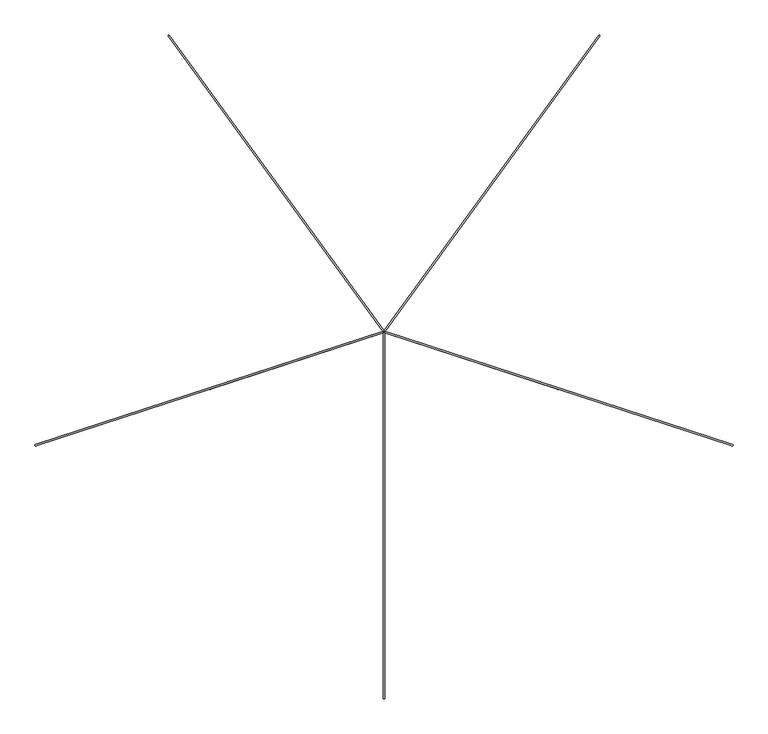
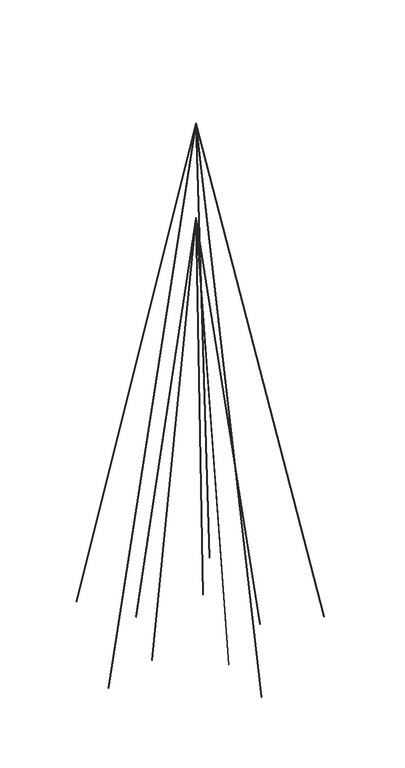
"""IFC4 building model written with IfcOpenShell, lengths in millimetres: proxy geometry, КНС_ДополнительныйКомплектДляМачты_DKC : NG6008_8м."""

import ifcopenshell
import ifcopenshell.guid

model = None  # the IFC model being written
_history = None  # IfcOwnerHistory: only IFC2X3 demands one
_inside = {}  # id of a spatial element -> (the spatial element, [elements in it])
_under = {}  # id of a project, library or spatial element -> (it, [spatial elements below it])
_declared = {}  # id of a project -> (the project, [libraries it declares])
_typed = {}  # id of a type object -> (the type object, [elements of that type])
_made_of = {}  # id of a material, layer set ... -> (it, [elements and type objects made of it])


def new_model(schema):
    """Start an empty IFC model of exactly this schema.

    Asked for "IFC4X3", IfcOpenShell would pick the latest addendum, in which some entities
    have other attributes; the version numbers below select the first issue.
    IFC2X3 requires an IfcOwnerHistory on every rooted entity: one is made here for all.
    """
    global model, _history
    if schema == "IFC4X3":
        model = ifcopenshell.file(schema_version=(4, 3, 0, 0))
    else:
        model = ifcopenshell.file(schema=schema)
    _inside.clear()
    _under.clear()
    _declared.clear()
    _typed.clear()
    _made_of.clear()
    _history = None
    if model.schema == "IFC2X3":
        org = make("IfcOrganization", Name="unknown")
        user = make(
            "IfcPersonAndOrganization",
            ThePerson=make("IfcPerson", FamilyName="unknown"),
            TheOrganization=org,
        )
        app = make(
            "IfcApplication",
            ApplicationDeveloper=org,
            Version="unknown",
            ApplicationFullName="unknown",
            ApplicationIdentifier="unknown",
        )
        _history = make(
            "IfcOwnerHistory",
            OwningUser=user,
            OwningApplication=app,
            ChangeAction="ADDED",
            CreationDate=0,
        )
    return model


def make(cls, **values):
    """One entity of the class cls with the attributes given. An attribute that is None is left unset."""
    return model.create_entity(
        cls, **{name: value for name, value in values.items() if value is not None}
    )


def rooted(cls, **values):
    """An entity with a GlobalId (a new one), such as an element, a storey or a relation."""
    return make(cls, GlobalId=ifcopenshell.guid.new(), OwnerHistory=_history, **values)


def si_unit(unit_type, name, prefix=None):
    """IfcSIUnit, for example si_unit("LENGTHUNIT", "METRE", prefix="MILLI")."""
    return make("IfcSIUnit", UnitType=unit_type, Prefix=prefix, Name=name)


def assignment(units):
    """IfcUnitAssignment: the units of a project."""
    return None if units is None else make("IfcUnitAssignment", Units=units)


def point(xyz):
    """IfcCartesianPoint."""
    return None if xyz is None else make("IfcCartesianPoint", Coordinates=xyz)


def direction(xyz):
    """IfcDirection."""
    return None if xyz is None else make("IfcDirection", DirectionRatios=xyz)


def frame(location, z_axis=None, x_axis=None):
    """IfcAxis2Placement3D, a coordinate frame: its origin and axes. An axis left out is left unset."""
    return make(
        "IfcAxis2Placement3D",
        Location=point(location),
        Axis=direction(z_axis),
        RefDirection=direction(x_axis),
    )


def frame_2d(location, x_axis=None):
    """IfcAxis2Placement2D, a coordinate frame in the plane: its origin and x axis."""
    return make(
        "IfcAxis2Placement2D", Location=point(location), RefDirection=direction(x_axis)
    )


def origin():
    """The frame at (0, 0, 0) with its axes left unset."""
    return frame((0.0, 0.0, 0.0))


def origin_2d():
    """The frame at (0, 0) in the plane with its x axis left unset."""
    return frame_2d((0.0, 0.0))


def place(relative_to, where):
    """IfcLocalPlacement: puts the frame where relative to a parent placement (None: the world)."""
    return make(
        "IfcLocalPlacement", PlacementRelTo=relative_to, RelativePlacement=where
    )


def context(
    kind, dimensions, precision=None, world=None, true_north=None, identifier=None
):
    """IfcGeometricRepresentationContext, for example the 3D "Model" context."""
    return make(
        "IfcGeometricRepresentationContext",
        ContextIdentifier=identifier,
        ContextType=kind,
        CoordinateSpaceDimension=dimensions,
        Precision=precision,
        WorldCoordinateSystem=world,
        TrueNorth=true_north,
    )


def project(units=None, contexts=None):
    """IfcProject with its units and contexts."""
    return rooted(
        "IfcProject",
        Name="project",
        RepresentationContexts=contexts,
        UnitsInContext=assignment(units),
    )


def spatial(cls, under=None, at=None, **own):
    """A site, building, storey or space (cls), placed at a placement, below another one or the project."""
    s = rooted(cls, ObjectPlacement=at, **own)
    if under is not None:
        _under.setdefault(under.id(), (under, []))[1].append(s)
    return s


def circle_curve(where, radius):
    """IfcCircle in the frame where."""
    return make("IfcCircle", Position=where, Radius=radius)


def trimmed(basis, trim1, trim2, sense, master):
    """IfcTrimmedCurve: the piece of a basis curve between two trims."""
    return make(
        "IfcTrimmedCurve",
        BasisCurve=basis,
        Trim1=trim1,
        Trim2=trim2,
        SenseAgreement=sense,
        MasterRepresentation=master,
    )


def segment(curve, same_sense, transition):
    """IfcCompositeCurveSegment."""
    return make(
        "IfcCompositeCurveSegment",
        Transition=transition,
        SameSense=same_sense,
        ParentCurve=curve,
    )


def composite_curve(segments, self_intersect=None):
    """IfcCompositeCurve: segments joined end to end."""
    return make("IfcCompositeCurve", Segments=segments, SelfIntersect=self_intersect)


def outline(outer, holes=None, kind="AREA"):
    """IfcArbitraryClosedProfileDef: a profile drawn as a closed curve; with holes, ...WithVoids."""
    if holes is None:
        return make("IfcArbitraryClosedProfileDef", ProfileType=kind, OuterCurve=outer)
    return make(
        "IfcArbitraryProfileDefWithVoids",
        ProfileType=kind,
        OuterCurve=outer,
        InnerCurves=holes,
    )


def extrude(swept, where, along, depth):
    """IfcExtrudedAreaSolid: the profile swept, set in the frame where, extruded along a direction by depth."""
    return make(
        "IfcExtrudedAreaSolid",
        SweptArea=swept,
        Position=where,
        ExtrudedDirection=direction(along),
        Depth=depth,
    )


def shape(context_of_items, identifier, shape_type, items):
    """IfcShapeRepresentation: the items that make up one representation, for example the "Body"."""
    return make(
        "IfcShapeRepresentation",
        ContextOfItems=context_of_items,
        RepresentationIdentifier=identifier,
        RepresentationType=shape_type,
        Items=items,
    )


def source(mapping_origin, context_of_items, identifier, shape_type, items):
    """IfcRepresentationMap: a shape defined once, which mapped items show again and again."""
    return make(
        "IfcRepresentationMap",
        MappingOrigin=mapping_origin,
        MappedRepresentation=shape(context_of_items, identifier, shape_type, items),
    )


def transform(
    local_origin,
    x_axis=None,
    y_axis=None,
    z_axis=None,
    scale=None,
    scale2=None,
    scale3=None,
    uniform=True,
):
    """IfcCartesianTransformationOperator3D, or its non-uniform kind. x_axis, y_axis, z_axis: its Axis1, 2, 3."""
    if uniform:
        return make(
            "IfcCartesianTransformationOperator3D",
            Axis1=direction(x_axis),
            Axis2=direction(y_axis),
            LocalOrigin=point(local_origin),
            Scale=scale,
            Axis3=direction(z_axis),
        )
    return make(
        "IfcCartesianTransformationOperator3DnonUniform",
        Axis1=direction(x_axis),
        Axis2=direction(y_axis),
        LocalOrigin=point(local_origin),
        Scale=scale,
        Axis3=direction(z_axis),
        Scale2=scale2,
        Scale3=scale3,
    )


def mapped(mapping_source, mapping_target):
    """IfcMappedItem: shows the shape of a source again, moved by a transform."""
    return make(
        "IfcMappedItem", MappingSource=mapping_source, MappingTarget=mapping_target
    )


def made_of(thing, what):
    """Note that an element or type object is made of a material, layer set ...; save() writes the relation."""
    if what is not None:
        _made_of.setdefault(what.id(), (what, []))[1].append(thing)
    return thing


def element(
    cls,
    number,
    at=None,
    inside=None,
    cuts=None,
    type_object=None,
    material=None,
    context=None,
    identifier="Body",
    shape_type=None,
    held_by="IfcProductDefinitionShape",
    body=None,
    shapes=None,
    **own,
):
    """One element of the class cls, such as IfcWall. Its Tag is "e" and its number.

    at: its placement. inside: the storey or other place that contains it. cuts: it is an
    opening in that element (IfcRelVoidsElement). A single representation is given by context,
    identifier, shape_type and body (its items); several are given by shapes. held_by: the class
    of the entity that holds the representations. save() writes the other relations.
    """
    e = rooted(cls, Tag="e%d" % number, ObjectPlacement=at, **own)
    if body is not None:
        shapes = [shape(context, identifier, shape_type, body)]
    if shapes is not None:
        e.Representation = make(held_by, Representations=shapes)
    if inside is not None:
        _inside.setdefault(inside.id(), (inside, []))[1].append(e)
    if cuts is not None:
        rooted(
            "IfcRelVoidsElement", RelatingBuildingElement=cuts, RelatedOpeningElement=e
        )
    if type_object is not None:
        _typed.setdefault(type_object.id(), (type_object, []))[1].append(e)
    return made_of(e, material)


def aggregate(whole, parts):
    """IfcRelAggregates: a whole, such as a stair, and the parts it consists of."""
    return rooted("IfcRelAggregates", RelatingObject=whole, RelatedObjects=parts)


def save(model, path):
    """Write the relations noted so far, then the file.

    IfcRelAggregates (storeys below a building ...), IfcRelContainedInSpatialStructure (elements
    in a storey), IfcRelDefinesByType, IfcRelAssociatesMaterial and IfcRelDeclares: one each for
    every whole, place, type object, material and project.
    """
    for whole, parts in _under.values():
        aggregate(whole, parts)
    for where, things in _inside.values():
        rooted(
            "IfcRelContainedInSpatialStructure",
            RelatedElements=things,
            RelatingStructure=where,
        )
    for kind, things in _typed.values():
        rooted("IfcRelDefinesByType", RelatedObjects=things, RelatingType=kind)
    for what, things in _made_of.values():
        rooted("IfcRelAssociatesMaterial", RelatedObjects=things, RelatingMaterial=what)
    for by, libraries in _declared.values():
        rooted("IfcRelDeclares", RelatingContext=by, RelatedDefinitions=libraries)
    model.write(path)


def security_devices_3b14cfa0(model_context):
    return source(origin(), model_context, "Body", "SweptSolid", [
        extrude(outline(composite_curve([segment(trimmed(circle_curve(origin_2d(), 3.0), [point((-2.9999999, 1e-07))], [point((3.0000001, 0.0))], False, "CARTESIAN"), True, "CONTINUOUS"), segment(trimmed(circle_curve(origin_2d(), 3.0), [point((3.0000001, 0.0))], [point((-2.9999999, 1e-07))], False, "CARTESIAN"), True, "CONTINUOUS")], self_intersect=False)), frame((-808.3980389, -262.6644452, 238.0), z_axis=(0.12213653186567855, 0.039684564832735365, 0.991719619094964), x_axis=(0.3090169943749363, -0.9510565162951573, 0.0)), (0.0, 0.0, 1.0), 6618.8062368),
        extrude(outline(composite_curve([segment(trimmed(circle_curve(origin_2d(), 3.0), [point((-3.0, 0.0))], [point((3.0000001, 0.0))], False, "CARTESIAN"), True, "CONTINUOUS"), segment(trimmed(circle_curve(origin_2d(), 3.0), [point((3.0000001, 0.0))], [point((-3.0, 0.0))], False, "CARTESIAN"), True, "CONTINUOUS")], self_intersect=False)), frame((-1616.7960777, -525.3288904, 238.0), z_axis=(0.196183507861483, 0.06374388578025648, 0.9784931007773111), x_axis=(0.30901699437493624, -0.9510565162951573, 0.0)), (0.0, 0.0, 1.0), 8241.2435955),
        extrude(outline(composite_curve([segment(trimmed(circle_curve(origin_2d(), 3.0), [point((-3.0, -1e-07))], [point((3.0, -1e-07))], False, "CARTESIAN"), True, "CONTINUOUS"), segment(trimmed(circle_curve(origin_2d(), 3.0), [point((3.0, -1e-07))], [point((-3.0, -1e-07))], False, "CARTESIAN"), True, "CONTINUOUS")], self_intersect=False)), frame((-499.6174644, 687.6644452, 238.0), z_axis=(0.07548452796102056, -0.10389553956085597, 0.991719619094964), x_axis=(-0.8090169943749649, -0.5877852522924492, 0.0)), (0.0, 0.0, 1.0), 6618.8062368),
        extrude(outline(composite_curve([segment(trimmed(circle_curve(origin_2d(), 3.0), [point((-3.0, 0.0))], [point((3.0, -1e-07))], False, "CARTESIAN"), True, "CONTINUOUS"), segment(trimmed(circle_curve(origin_2d(), 3.0), [point((3.0, -1e-07))], [point((-3.0, 0.0))], False, "CARTESIAN"), True, "CONTINUOUS")], self_intersect=False)), frame((-999.2349289, 1375.3288904, 238.0), z_axis=(0.1212480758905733, -0.16688365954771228, 0.9784931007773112), x_axis=(-0.809016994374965, -0.5877852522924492, 0.0)), (0.0, 0.0, 1.0), 8241.2435955),
        extrude(outline(composite_curve([segment(trimmed(circle_curve(origin_2d(), 3.0), [point((-3.0, -1e-07))], [point((3.0, -1e-07))], False, "CARTESIAN"), True, "CONTINUOUS"), segment(trimmed(circle_curve(origin_2d(), 3.0), [point((3.0, -1e-07))], [point((-3.0, -1e-07))], False, "CARTESIAN"), True, "CONTINUOUS")], self_intersect=False)), frame((499.6174644, 687.6644452, 238.0), z_axis=(-0.07548452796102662, -0.1038955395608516, 0.991719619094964), x_axis=(-0.8090169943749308, 0.5877852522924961, 0.0)), (0.0, 0.0, 1.0), 6618.8062368),
        extrude(outline(composite_curve([segment(trimmed(circle_curve(origin_2d(), 3.0), [point((-3.0, -1e-07))], [point((3.0, 0.0))], False, "CARTESIAN"), True, "CONTINUOUS"), segment(trimmed(circle_curve(origin_2d(), 3.0), [point((3.0, 0.0))], [point((-3.0, -1e-07))], False, "CARTESIAN"), True, "CONTINUOUS")], self_intersect=False)), frame((999.2349289, 1375.3288904, 238.0), z_axis=(-0.12124807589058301, -0.16688365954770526, 0.9784931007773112), x_axis=(-0.8090169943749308, 0.5877852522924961, 0.0)), (0.0, 0.0, 1.0), 8241.2435955),
        extrude(outline(composite_curve([segment(trimmed(circle_curve(origin_2d(), 3.0), [point((-3.0000001, 0.0))], [point((2.9999999, 1e-07))], False, "CARTESIAN"), True, "CONTINUOUS"), segment(trimmed(circle_curve(origin_2d(), 3.0), [point((2.9999999, 1e-07))], [point((-3.0000001, 0.0))], False, "CARTESIAN"), True, "CONTINUOUS")], self_intersect=False)), frame((808.3980389, -262.6644452, 238.0), z_axis=(-0.12213653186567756, 0.03968456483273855, 0.9917196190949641), x_axis=(0.3090169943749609, 0.9510565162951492, 0.0)), (0.0, 0.0, 1.0), 6618.8062368),
        extrude(outline(composite_curve([segment(trimmed(circle_curve(origin_2d(), 3.0), [point((-3.0000001, 0.0))], [point((3.0, 0.0))], False, "CARTESIAN"), True, "CONTINUOUS"), segment(trimmed(circle_curve(origin_2d(), 3.0), [point((3.0, 0.0))], [point((-3.0000001, 0.0))], False, "CARTESIAN"), True, "CONTINUOUS")], self_intersect=False)), frame((1616.7960777, -525.3288904, 238.0), z_axis=(-0.19618350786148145, 0.06374388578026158, 0.9784931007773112), x_axis=(0.30901699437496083, 0.9510565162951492, 0.0)), (0.0, 0.0, 1.0), 8241.2435955),
        extrude(outline(composite_curve([segment(trimmed(circle_curve(origin_2d(), 3.0), [point((-3.0, 0.0))], [point((3.0, 0.0))], False, "CARTESIAN"), True, "CONTINUOUS"), segment(trimmed(circle_curve(origin_2d(), 3.0), [point((3.0, 0.0))], [point((-3.0, 0.0))], False, "CARTESIAN"), True, "CONTINUOUS")], self_intersect=False)), frame((0.0, -850.0, 238.0), z_axis=(0.0, 0.1284219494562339, 0.9917196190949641), x_axis=(1.0, 0.0, 0.0)), (0.0, 0.0, 1.0), 6618.8062368),
        extrude(outline(composite_curve([segment(trimmed(circle_curve(origin_2d(), 3.0), [point((-3.0, 0.0))], [point((3.0, 0.0))], False, "CARTESIAN"), True, "CONTINUOUS"), segment(trimmed(circle_curve(origin_2d(), 3.0), [point((3.0, 0.0))], [point((-3.0, 0.0))], False, "CARTESIAN"), True, "CONTINUOUS")], self_intersect=False)), frame((0.0, -1700.0, 238.0), z_axis=(0.0, 0.20627954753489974, 0.9784931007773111), x_axis=(1.0, 0.0, 0.0)), (0.0, 0.0, 1.0), 8241.2435955),
    ])


if __name__ == "__main__":
    model = new_model("IFC4")
    model_context = context("Model", 3, world=origin())
    ifc_project = project(units=[si_unit("LENGTHUNIT", "METRE", prefix="MILLI")], contexts=[model_context])
    site = spatial("IfcSite", under=ifc_project)
    building = spatial("IfcBuilding", under=site)
    placement = place(None, origin())
    security_devices_shape = security_devices_3b14cfa0(model_context)
    element("IfcBuildingElementProxy", 1, Name="КНС_ДополнительныйКомплектДляМачты_DKC : NG6008_8м", ObjectType="КНС_ДополнительныйКомплектДляМачты_DKC : NG6008_8м", at=placement, inside=building, context=model_context, shape_type="MappedRepresentation", body=[
        mapped(security_devices_shape, transform((0.0, 0.0, 0.0), x_axis=(1.0, 0.0, 0.0), y_axis=(0.0, 1.0, 0.0), z_axis=(0.0, 0.0, 1.0))),
    ])
    save(model, "model.ifc")
